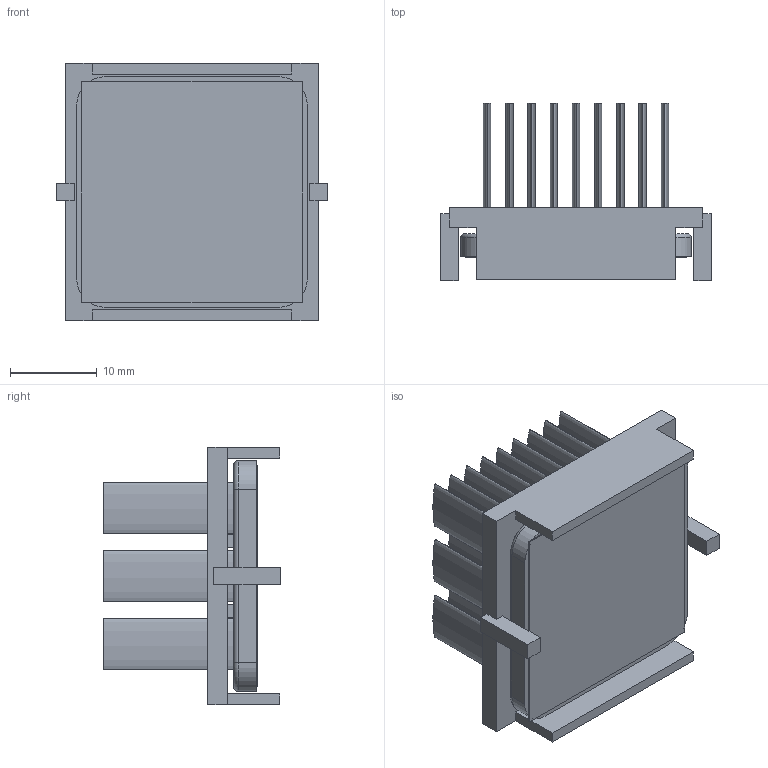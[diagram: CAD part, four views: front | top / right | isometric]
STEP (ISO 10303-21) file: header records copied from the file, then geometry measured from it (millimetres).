
FILE_DESCRIPTION (( 'STEP AP214' ), '1' );
FILE_NAME ('INM27001-18W_2.6+K32.STEP', '2023-02-17T18:20:34', ( '' ), ( '' ), 'SwSTEP 2.0', 'SolidWorks 2020', '' );
FILE_SCHEMA (( 'AUTOMOTIVE_DESIGN' ));
Length unit declared in the file: inch
Products named in the file (1): INM27001-18W_2.6+K32
Bounding box: 31.2 x 20.4 x 29.7 mm (x, y, z)
Volume: 4818.1 mm3; surface area: 9982.4 mm2
Topology: 3 solids, 3 shells, 159 faces, 370 edges, 244 vertices
Faces by surface type: plane 93, bspline 54, cylinder 8, torus 4
Entity records: 6735 total; most frequent: CARTESIAN_POINT 1476, ORIENTED_EDGE 740, DIRECTION 494, EDGE_CURVE 370, VERTEX_POINT 244, LINE 242, VECTOR 242, EDGE_LOOP 188
